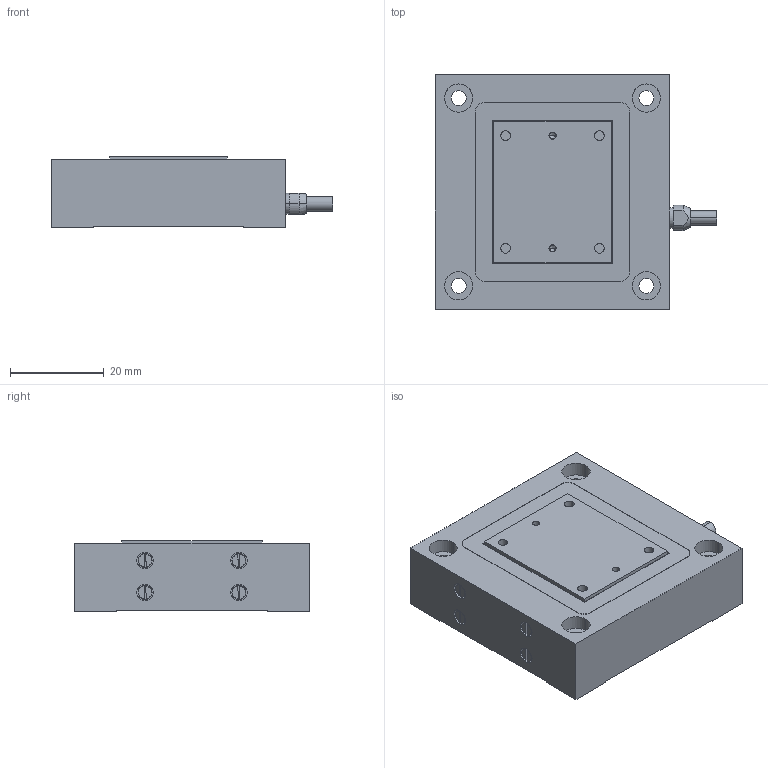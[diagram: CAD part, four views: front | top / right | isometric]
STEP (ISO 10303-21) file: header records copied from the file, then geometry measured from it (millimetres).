
FILE_DESCRIPTION (( 'STEP AP203' ), '1' );
FILE_NAME ('P-622.1XX.STEP', '2014-02-12T13:01:50', ( 'test' ), ( '' ), 'SwSTEP 2.0', 'SolidWorks 2012', '' );
FILE_SCHEMA (( 'CONFIG_CONTROL_DESIGN' ));
Length unit declared in the file: millimetre
Products named in the file (1): P-622.1XX
Bounding box: 60 x 50 x 15 mm (x, y, z)
Volume: 33336.5 mm3; surface area: 16000.3 mm2
Topology: 17 solids, 17 shells, 489 faces, 1167 edges, 709 vertices
Faces by surface type: cylinder 169, plane 166, cone 114, torus 40
Entity records: 14884 total; most frequent: CARTESIAN_POINT 3346, DIRECTION 2557, ORIENTED_EDGE 2262, EDGE_CURVE 1131, AXIS2_PLACEMENT_3D 1020, VERTEX_POINT 709, EDGE_LOOP 560, CIRCLE 530
